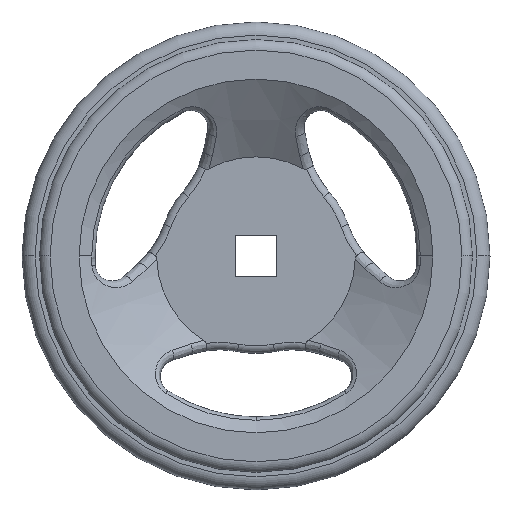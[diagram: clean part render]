
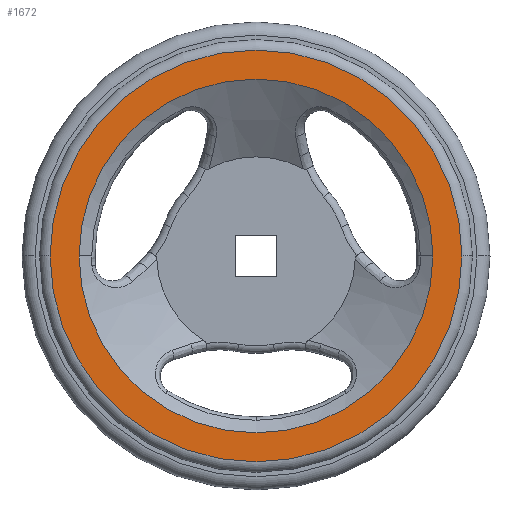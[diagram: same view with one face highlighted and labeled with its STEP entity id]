
A CAD part, top view. The second image highlights one B-rep face of the part: STEP entity #1672.
In plain terms, the highlighted planar face has unit normal (0, 0, 1).
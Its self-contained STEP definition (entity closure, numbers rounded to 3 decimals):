
#334 = ORIENTED_EDGE ( 'NONE', *, *, #985, .F. ) ;
#368 = DIRECTION ( 'NONE',  ( 0., 0., 1. ) ) ;
#747 = DIRECTION ( 'NONE',  ( -1., 0., 0. ) ) ;
#860 = DIRECTION ( 'NONE',  ( 1., 0., 0. ) ) ;
#882 = CARTESIAN_POINT ( 'NONE',  ( 0., 0., 14. ) ) ;
#886 = EDGE_CURVE ( 'NONE', #2674, #1318, #888, .T. ) ;
#888 = CIRCLE ( 'NONE', #3653, 55. ) ;
#923 = DIRECTION ( 'NONE',  ( 0., 0., 1. ) ) ;
#985 = EDGE_CURVE ( 'NONE', #1712, #4230, #2896, .T. ) ;
#1018 = AXIS2_PLACEMENT_3D ( 'NONE', #882, #923, #860 ) ;
#1123 = CARTESIAN_POINT ( 'NONE',  ( -47.256, 0., 14. ) ) ;
#1134 = CIRCLE ( 'NONE', #2314, 47.256 ) ;
#1202 = DIRECTION ( 'NONE',  ( 0., 0., 1. ) ) ;
#1296 = DIRECTION ( 'NONE',  ( 1., 0., 0. ) ) ;
#1318 = VERTEX_POINT ( 'NONE', #2166 ) ;
#1454 = FACE_OUTER_BOUND ( 'NONE', #3787, .T. ) ;
#1672 = ADVANCED_FACE ( 'NONE', ( #3479, #1454 ), #4089, .F. ) ;
#1699 = AXIS2_PLACEMENT_3D ( 'NONE', #3064, #2786, #747 ) ;
#1712 = VERTEX_POINT ( 'NONE', #1123 ) ;
#1872 = DIRECTION ( 'NONE',  ( 0., 0., 1. ) ) ;
#2072 = CARTESIAN_POINT ( 'NONE',  ( 47.256, 0., 14. ) ) ;
#2126 = ORIENTED_EDGE ( 'NONE', *, *, #886, .T. ) ;
#2166 = CARTESIAN_POINT ( 'NONE',  ( 55., 0., 14. ) ) ;
#2173 = DIRECTION ( 'NONE',  ( 1., 0., 0. ) ) ;
#2314 = AXIS2_PLACEMENT_3D ( 'NONE', #3478, #1202, #4186 ) ;
#2586 = EDGE_LOOP ( 'NONE', ( #3880, #334 ) ) ;
#2674 = VERTEX_POINT ( 'NONE', #3496 ) ;
#2772 = ORIENTED_EDGE ( 'NONE', *, *, #3764, .T. ) ;
#2786 = DIRECTION ( 'NONE',  ( 0., 0., -1. ) ) ;
#2875 = CIRCLE ( 'NONE', #3292, 55. ) ;
#2896 = CIRCLE ( 'NONE', #1018, 47.256 ) ;
#3064 = CARTESIAN_POINT ( 'NONE',  ( 0., 55., 14. ) ) ;
#3187 = CARTESIAN_POINT ( 'NONE',  ( 0., 0., 14. ) ) ;
#3292 = AXIS2_PLACEMENT_3D ( 'NONE', #3605, #368, #1296 ) ;
#3478 = CARTESIAN_POINT ( 'NONE',  ( 0., 0., 14. ) ) ;
#3479 = FACE_BOUND ( 'NONE', #2586, .T. ) ;
#3496 = CARTESIAN_POINT ( 'NONE',  ( -55., 0., 14. ) ) ;
#3605 = CARTESIAN_POINT ( 'NONE',  ( 0., 0., 14. ) ) ;
#3653 = AXIS2_PLACEMENT_3D ( 'NONE', #3187, #1872, #2173 ) ;
#3764 = EDGE_CURVE ( 'NONE', #1318, #2674, #2875, .T. ) ;
#3787 = EDGE_LOOP ( 'NONE', ( #2772, #2126 ) ) ;
#3880 = ORIENTED_EDGE ( 'NONE', *, *, #4002, .F. ) ;
#4002 = EDGE_CURVE ( 'NONE', #4230, #1712, #1134, .T. ) ;
#4089 = PLANE ( 'NONE',  #1699 ) ;
#4186 = DIRECTION ( 'NONE',  ( 1., 0., 0. ) ) ;
#4230 = VERTEX_POINT ( 'NONE', #2072 ) ;
